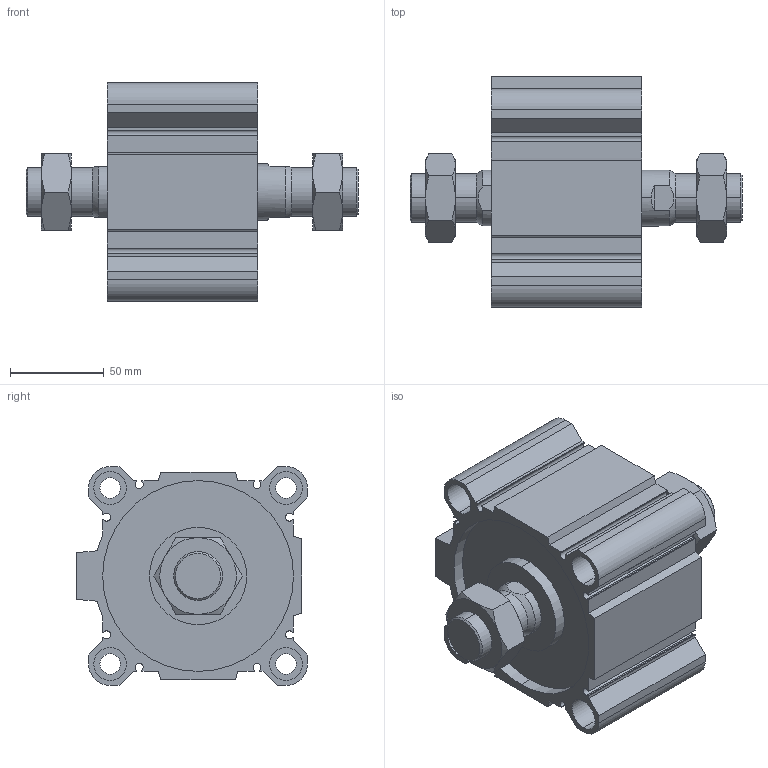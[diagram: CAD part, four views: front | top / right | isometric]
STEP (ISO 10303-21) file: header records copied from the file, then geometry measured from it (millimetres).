
FILE_DESCRIPTION (( 'STEP AP203' ), '1' );
FILE_NAME ('CCMB100-10M-P.STEP', '2020-08-10T11:57:22', ( '' ), ( '' ), 'SwSTEP 2.0', 'SolidWorks 2019', '' );
FILE_SCHEMA (( 'CONFIG_CONTROL_DESIGN' ));
Length unit declared in the file: millimetre
Products named in the file (1): CCMB100-10M-P
Bounding box: 177.5 x 123.5 x 117 mm (x, y, z)
Volume: 859973.1 mm3; surface area: 177290 mm2
Topology: 4 solids, 4 shells, 230 faces, 568 edges, 364 vertices
Faces by surface type: plane 106, cylinder 80, cone 44
Entity records: 7879 total; most frequent: CARTESIAN_POINT 2279, DIRECTION 1166, ORIENTED_EDGE 1136, EDGE_CURVE 568, AXIS2_PLACEMENT_3D 431, VERTEX_POINT 364, LINE 304, VECTOR 304
